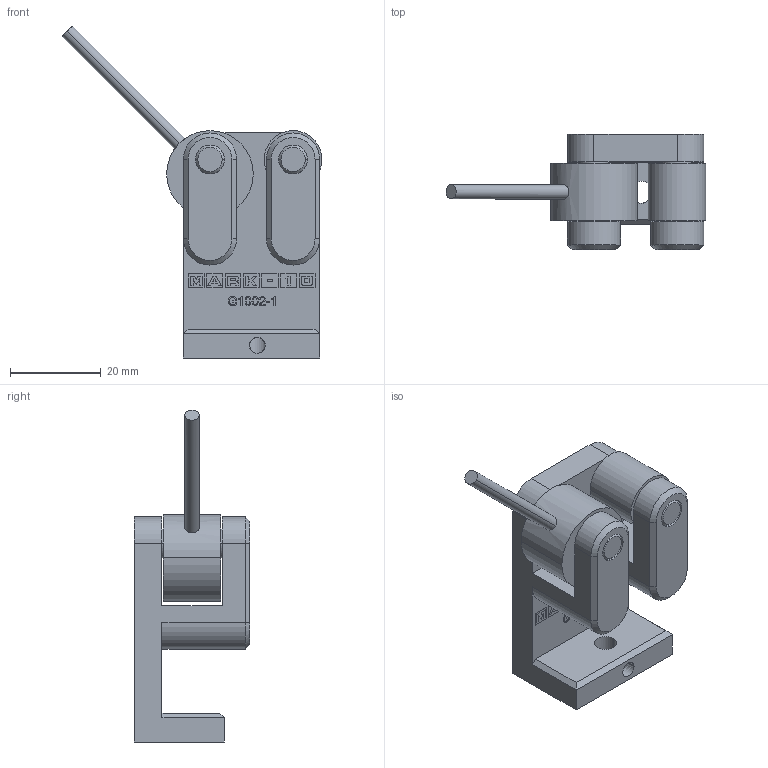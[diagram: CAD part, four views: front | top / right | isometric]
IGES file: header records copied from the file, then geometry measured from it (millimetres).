
Global section: file name: No Iges File Name specified; native system: Autodesk Inventor 2010; preprocessor: AutoDesk Inventor Iges Exporter R2010; author: mlampen; date: 20170419.124741; units: inch
Bounding box: 57.19 x 25.4 x 73.07 mm (x, y, z)
Volume: 23164.1 mm3; surface area: 11290.7 mm2
Topology: 3 solids, 3 shells, 433 faces, 1171 edges, 775 vertices
Faces by surface type: plane 375, revolution 23, cylinder 23, cone 12
